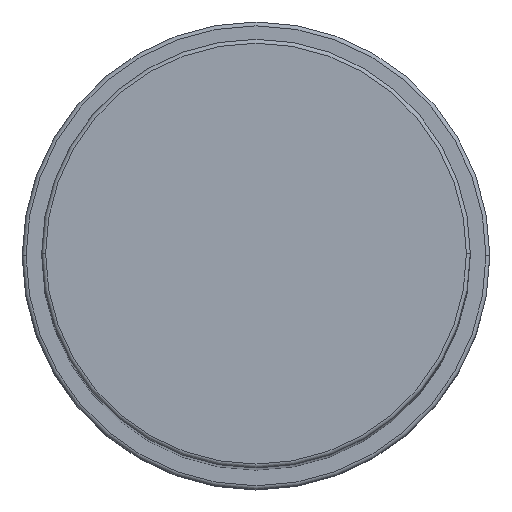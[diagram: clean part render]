
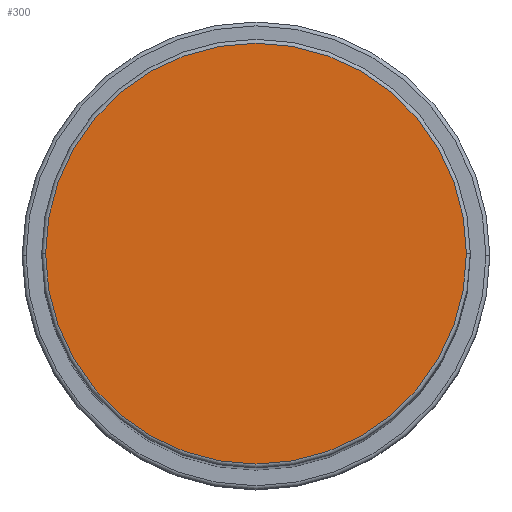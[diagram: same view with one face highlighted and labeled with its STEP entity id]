
A CAD part, top view. The second image highlights one B-rep face of the part: STEP entity #300.
In plain terms, the highlighted planar face has unit normal (0, 0, 1).
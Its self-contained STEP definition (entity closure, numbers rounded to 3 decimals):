
#24 = CARTESIAN_POINT ( 'NONE',  ( -27., 0., 173. ) ) ;
#300 = ADVANCED_FACE ( 'NONE', ( #1309 ), #1720, .T. ) ;
#562 = CARTESIAN_POINT ( 'NONE',  ( 0., 0., 173. ) ) ;
#602 = DIRECTION ( 'NONE',  ( 0., 0., 1. ) ) ;
#717 = DIRECTION ( 'NONE',  ( 0., 0., 1. ) ) ;
#737 = EDGE_LOOP ( 'NONE', ( #1580, #1390 ) ) ;
#795 = CARTESIAN_POINT ( 'NONE',  ( 0., 0., 173. ) ) ;
#848 = CIRCLE ( 'NONE', #1348, 27. ) ;
#975 = CIRCLE ( 'NONE', #1558, 27. ) ;
#992 = CARTESIAN_POINT ( 'NONE',  ( 27., 0., 173. ) ) ;
#1095 = EDGE_CURVE ( 'NONE', #1801, #1253, #848, .T. ) ;
#1116 = DIRECTION ( 'NONE',  ( 1., 0., 0. ) ) ;
#1253 = VERTEX_POINT ( 'NONE', #24 ) ;
#1309 = FACE_OUTER_BOUND ( 'NONE', #737, .T. ) ;
#1348 = AXIS2_PLACEMENT_3D ( 'NONE', #1844, #602, #1836 ) ;
#1350 = DIRECTION ( 'NONE',  ( 1., 0., 0. ) ) ;
#1390 = ORIENTED_EDGE ( 'NONE', *, *, #1474, .T. ) ;
#1474 = EDGE_CURVE ( 'NONE', #1253, #1801, #975, .T. ) ;
#1558 = AXIS2_PLACEMENT_3D ( 'NONE', #562, #717, #1350 ) ;
#1569 = DIRECTION ( 'NONE',  ( 0., 0., 1. ) ) ;
#1580 = ORIENTED_EDGE ( 'NONE', *, *, #1095, .T. ) ;
#1720 = PLANE ( 'NONE',  #1963 ) ;
#1801 = VERTEX_POINT ( 'NONE', #992 ) ;
#1836 = DIRECTION ( 'NONE',  ( 1., 0., 0. ) ) ;
#1844 = CARTESIAN_POINT ( 'NONE',  ( 0., 0., 173. ) ) ;
#1963 = AXIS2_PLACEMENT_3D ( 'NONE', #795, #1569, #1116 ) ;
